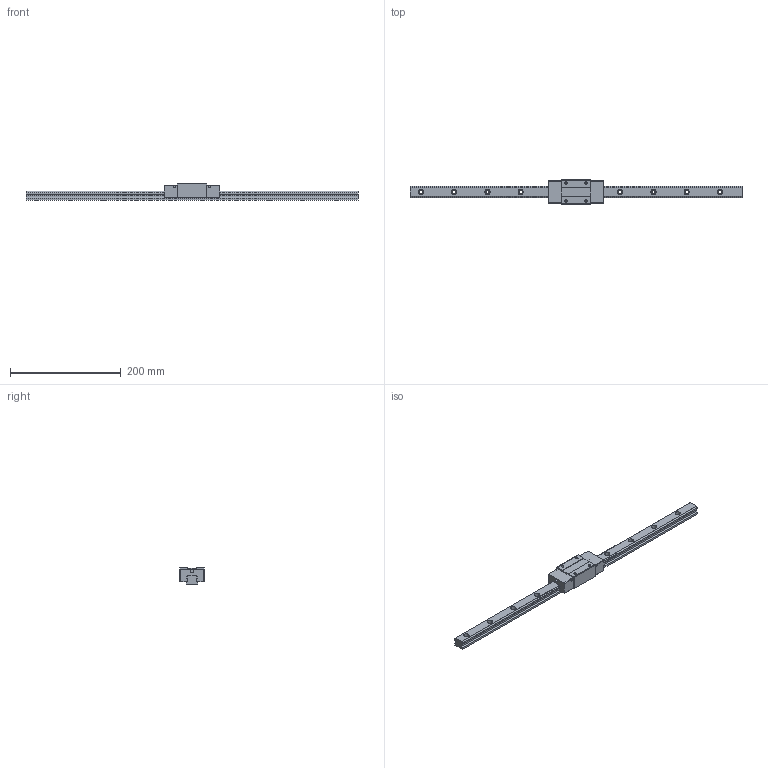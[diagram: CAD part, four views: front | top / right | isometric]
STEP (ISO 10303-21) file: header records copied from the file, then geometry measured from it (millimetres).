
FILE_DESCRIPTION (( 'STEP AP203' ), '1' );
FILE_NAME ('TRH20VN-DZ.STEP', '2024-07-10T08:01:20', ( '' ), ( '' ), 'SwSTEP 2.0', 'SolidWorks 2022', '' );
FILE_SCHEMA (( 'CONFIG_CONTROL_DESIGN' ));
Length unit declared in the file: millimetre
Products named in the file (1): TRH20VN-DZ
Bounding box: 600 x 44 x 30 mm (x, y, z)
Volume: 250411.6 mm3; surface area: 68367 mm2
Topology: 2 solids, 2 shells, 196 faces, 512 edges, 332 vertices
Faces by surface type: cylinder 96, plane 84, cone 16
Entity records: 6127 total; most frequent: DIRECTION 1098, CARTESIAN_POINT 1033, ORIENTED_EDGE 1008, EDGE_CURVE 504, AXIS2_PLACEMENT_3D 397, VERTEX_POINT 332, VECTOR 304, LINE 304
